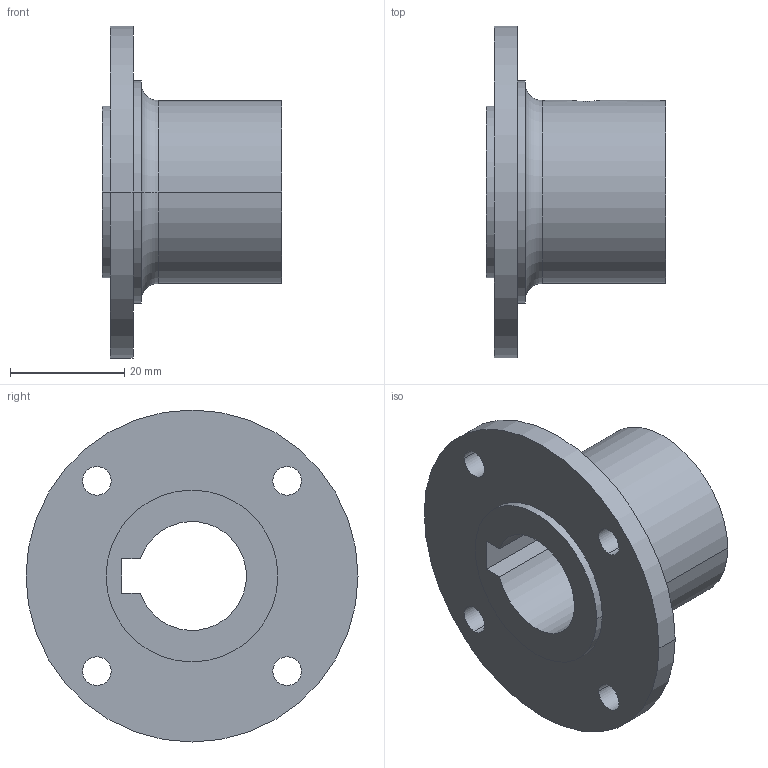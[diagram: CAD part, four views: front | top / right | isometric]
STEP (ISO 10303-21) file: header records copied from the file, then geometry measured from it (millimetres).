
FILE_DESCRIPTION(('Creo Elements/Direct Modeling STEP Export'),'2;1');
FILE_NAME('Gegenflansch_1_105_240.stp','2014-10-17T10:29:07',(''),(''),'PTC Creo Elements/Direct Modeling STEP processor for AP214 (Solid Model)','PTC Creo Elements/Direct Modeling 19.0 09-May-2014 (C) Parametric Technology GmbH','');
FILE_SCHEMA(('AUTOMOTIVE_DESIGN { 1 0 10303 214 1 1 1 1 }'));
Length unit declared in the file: millimetre
Products named in the file (2): Gegenflansch_1_105_240
Assembly tree (1 placements, depth 2):
  Gegenflansch_1_105_240
    Gegenflansch_1_105_240
Bounding box: 31.4 x 58 x 58 mm (x, y, z)
Volume: 23377.8 mm3; surface area: 10249.1 mm2
Topology: 1 solids, 1 shells, 33 faces, 79 edges, 50 vertices
Faces by surface type: cylinder 19, plane 8, cone 4, torus 2
Entity records: 1357 total; most frequent: CARTESIAN_POINT 518, ORIENTED_EDGE 158, DIRECTION 150, EDGE_CURVE 79, AXIS2_PLACEMENT_3D 59, VERTEX_POINT 50, EDGE_LOOP 47, FACE_OUTER_BOUND 33
